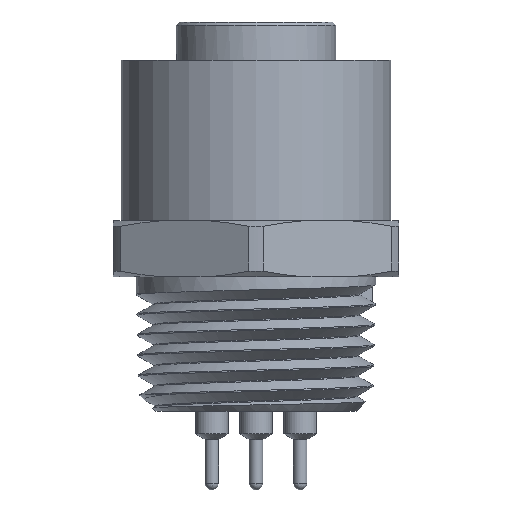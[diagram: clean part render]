
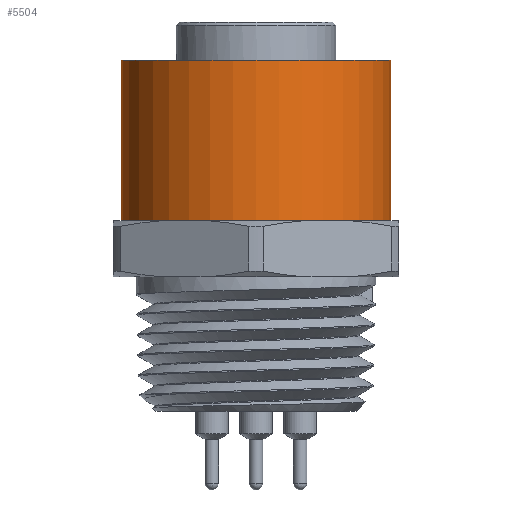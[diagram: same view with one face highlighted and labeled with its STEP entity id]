
A CAD part, front view. The second image highlights one B-rep face of the part: STEP entity #5504.
In plain terms, the highlighted cylindrical face has radius 12 mm (diameter 24 mm), a full revolution.
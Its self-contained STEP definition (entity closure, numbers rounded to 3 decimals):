
#156 = DIRECTION ( 'NONE',  ( 0., 0., 1. ) ) ;
#284 = DIRECTION ( 'NONE',  ( 1., 0., 0. ) ) ;
#311 = CARTESIAN_POINT ( 'NONE',  ( 12., 0., -17.7 ) ) ;
#325 = CARTESIAN_POINT ( 'NONE',  ( 0., 0., -17.7 ) ) ;
#458 = EDGE_CURVE ( 'NONE', #1688, #1688, #3972, .T. ) ;
#488 = ORIENTED_EDGE ( 'NONE', *, *, #458, .F. ) ;
#493 = EDGE_LOOP ( 'NONE', ( #1028 ) ) ;
#723 = VERTEX_POINT ( 'NONE', #311 ) ;
#796 = FACE_OUTER_BOUND ( 'NONE', #2606, .T. ) ;
#1028 = ORIENTED_EDGE ( 'NONE', *, *, #4476, .T. ) ;
#1077 = DIRECTION ( 'NONE',  ( 1., 0., 0. ) ) ;
#1688 = VERTEX_POINT ( 'NONE', #5081 ) ;
#1900 = CARTESIAN_POINT ( 'NONE',  ( 0., 0., -3.4 ) ) ;
#1987 = CARTESIAN_POINT ( 'NONE',  ( 0., 0., -3.4 ) ) ;
#2332 = CYLINDRICAL_SURFACE ( 'NONE', #4111, 12. ) ;
#2415 = DIRECTION ( 'NONE',  ( 1., 0., 0. ) ) ;
#2606 = EDGE_LOOP ( 'NONE', ( #488 ) ) ;
#3245 = DIRECTION ( 'NONE',  ( 0., 0., 1. ) ) ;
#3567 = DIRECTION ( 'NONE',  ( 0., 0., 1. ) ) ;
#3972 = CIRCLE ( 'NONE', #4775, 12. ) ;
#4111 = AXIS2_PLACEMENT_3D ( 'NONE', #1900, #3245, #2415 ) ;
#4143 = AXIS2_PLACEMENT_3D ( 'NONE', #325, #3567, #284 ) ;
#4476 = EDGE_CURVE ( 'NONE', #723, #723, #5051, .T. ) ;
#4775 = AXIS2_PLACEMENT_3D ( 'NONE', #1987, #156, #1077 ) ;
#5051 = CIRCLE ( 'NONE', #4143, 12. ) ;
#5081 = CARTESIAN_POINT ( 'NONE',  ( 12., 0., -3.4 ) ) ;
#5116 = FACE_OUTER_BOUND ( 'NONE', #493, .T. ) ;
#5504 = ADVANCED_FACE ( 'NONE', ( #5116, #796 ), #2332, .T. ) ;
